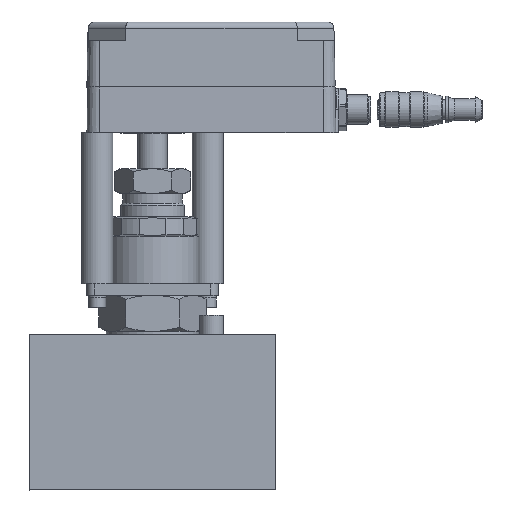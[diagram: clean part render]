
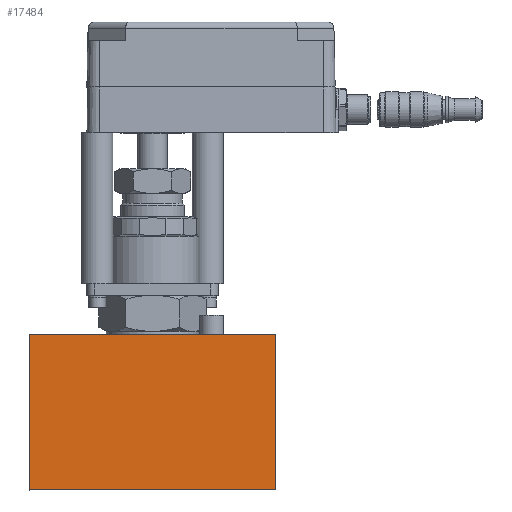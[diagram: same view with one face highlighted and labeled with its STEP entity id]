
A CAD part, top view. The second image highlights one B-rep face of the part: STEP entity #17484.
In plain terms, the highlighted planar face has unit normal (0, 0, 1) as drawn and (0, 0, -1) by its records, which use the part's own axes.
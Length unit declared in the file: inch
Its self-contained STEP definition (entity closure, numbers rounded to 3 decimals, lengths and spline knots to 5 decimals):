
#893 = DIRECTION ( 'NONE',  ( 0., 0., 1. ) ) ;
#3160 = FACE_OUTER_BOUND ( 'NONE', #17869, .T. ) ;
#3643 = VECTOR ( 'NONE', #16199, 39.37008 ) ;
#4089 = VERTEX_POINT ( 'NONE', #14917 ) ;
#5122 = CARTESIAN_POINT ( 'NONE',  ( -1.81089, 1.06875, 3.11024 ) ) ;
#6667 = ORIENTED_EDGE ( 'NONE', *, *, #14592, .T. ) ;
#6695 = CARTESIAN_POINT ( 'NONE',  ( -1.81089, 1.06875, 3.11024 ) ) ;
#6818 = ORIENTED_EDGE ( 'NONE', *, *, #15815, .T. ) ;
#7284 = CARTESIAN_POINT ( 'NONE',  ( -1.81089, 1.06875, 3.11024 ) ) ;
#7769 = ORIENTED_EDGE ( 'NONE', *, *, #9932, .T. ) ;
#8293 = ORIENTED_EDGE ( 'NONE', *, *, #21212, .T. ) ;
#8760 = VERTEX_POINT ( 'NONE', #21499 ) ;
#9100 = CARTESIAN_POINT ( 'NONE',  ( -1.81089, -1.41156, 3.11024 ) ) ;
#9932 = EDGE_CURVE ( 'NONE', #8760, #10764, #19497, .T. ) ;
#9988 = DIRECTION ( 'NONE',  ( 1., 0., 0. ) ) ;
#10764 = VERTEX_POINT ( 'NONE', #23418 ) ;
#12198 = PLANE ( 'NONE',  #26584 ) ;
#12454 = VECTOR ( 'NONE', #15635, 39.37008 ) ;
#12458 = VERTEX_POINT ( 'NONE', #5122 ) ;
#14126 = VECTOR ( 'NONE', #19352, 39.37008 ) ;
#14592 = EDGE_CURVE ( 'NONE', #4089, #12458, #27402, .T. ) ;
#14917 = CARTESIAN_POINT ( 'NONE',  ( -1.81089, -1.41156, 3.11024 ) ) ;
#15635 = DIRECTION ( 'NONE',  ( 1., 0., 0. ) ) ;
#15815 = EDGE_CURVE ( 'NONE', #12458, #8760, #26799, .T. ) ;
#16199 = DIRECTION ( 'NONE',  ( 0., 1., 0. ) ) ;
#17484 = ADVANCED_FACE ( 'NONE', ( #3160 ), #12198, .F. ) ;
#17869 = EDGE_LOOP ( 'NONE', ( #6667, #6818, #7769, #8293 ) ) ;
#18061 = DIRECTION ( 'NONE',  ( -1., 0., 0. ) ) ;
#19313 = CARTESIAN_POINT ( 'NONE',  ( 2.12612, 1.06875, 3.11024 ) ) ;
#19352 = DIRECTION ( 'NONE',  ( 0., -1., 0. ) ) ;
#19497 = LINE ( 'NONE', #19313, #14126 ) ;
#21212 = EDGE_CURVE ( 'NONE', #10764, #4089, #29272, .T. ) ;
#21239 = CARTESIAN_POINT ( 'NONE',  ( 0.15762, -0.17141, 3.11024 ) ) ;
#21499 = CARTESIAN_POINT ( 'NONE',  ( 2.12612, 1.06875, 3.11024 ) ) ;
#22618 = VECTOR ( 'NONE', #18061, 39.37008 ) ;
#23418 = CARTESIAN_POINT ( 'NONE',  ( 2.12612, -1.41156, 3.11024 ) ) ;
#26584 = AXIS2_PLACEMENT_3D ( 'NONE', #21239, #893, #9988 ) ;
#26799 = LINE ( 'NONE', #6695, #12454 ) ;
#27402 = LINE ( 'NONE', #7284, #3643 ) ;
#29272 = LINE ( 'NONE', #9100, #22618 ) ;
